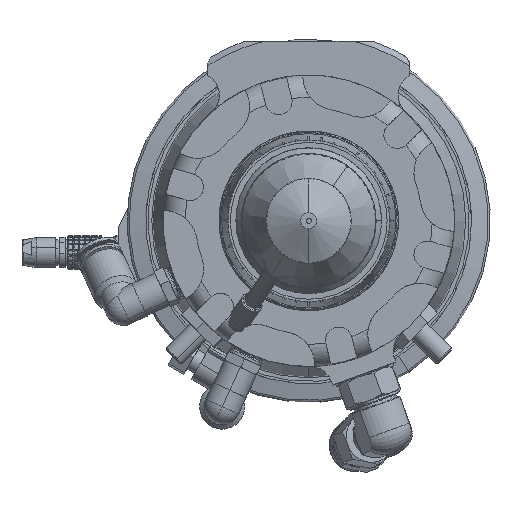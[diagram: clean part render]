
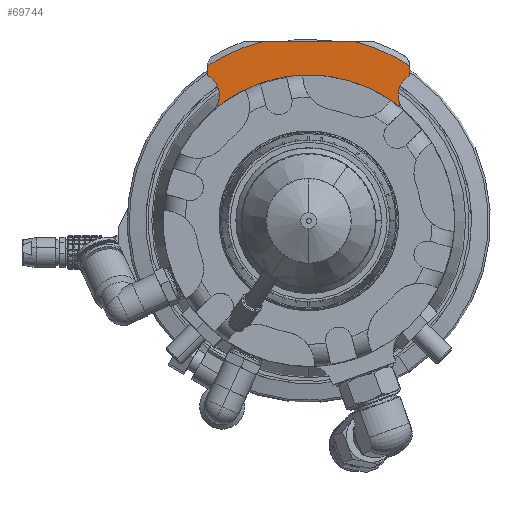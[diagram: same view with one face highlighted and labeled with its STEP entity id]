
A CAD part, front view. The second image highlights one B-rep face of the part: STEP entity #69744.
In plain terms, the highlighted planar face has unit normal (0, -1, 0).
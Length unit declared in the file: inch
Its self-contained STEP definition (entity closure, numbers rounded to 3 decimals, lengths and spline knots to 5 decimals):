
#264 = CARTESIAN_POINT ( 'NONE',  ( -1.245, -4.795, 1.402 ) ) ;
#1282 = DIRECTION ( 'NONE',  ( 0., 0., -1. ) ) ;
#2506 = AXIS2_PLACEMENT_3D ( 'NONE', #23855, #134978, #69988 ) ;
#3811 = ORIENTED_EDGE ( 'NONE', *, *, #46209, .F. ) ;
#5008 = VERTEX_POINT ( 'NONE', #54929 ) ;
#12100 = AXIS2_PLACEMENT_3D ( 'NONE', #155216, #73202, #114461 ) ;
#13683 = DIRECTION ( 'NONE',  ( -1., 0., 0. ) ) ;
#14058 = VERTEX_POINT ( 'NONE', #124306 ) ;
#15635 = DIRECTION ( 'NONE',  ( 0., -1., 0. ) ) ;
#19251 = EDGE_CURVE ( 'Defeatured_463_8+Defeatured_463_6+Defeatured_463_4+Defeatured_463_7', #20897, #99277, #120970, .T. ) ;
#19785 = ORIENTED_EDGE ( 'NONE', *, *, #19251, .T. ) ;
#19798 = ORIENTED_EDGE ( 'NONE', *, *, #115115, .T. ) ;
#20897 = VERTEX_POINT ( 'NONE', #142655 ) ;
#22637 = DIRECTION ( 'NONE',  ( 0., -1., 0. ) ) ;
#23539 = CARTESIAN_POINT ( 'NONE',  ( -1.125, -4.795, 1.62132 ) ) ;
#23855 = CARTESIAN_POINT ( 'NONE',  ( 0., -4.795, 0. ) ) ;
#24326 = CIRCLE ( 'NONE', #157710, 0.25 ) ;
#24467 = VERTEX_POINT ( 'NONE', #36655 ) ;
#26292 = DIRECTION ( 'NONE',  ( -1., 0., 0. ) ) ;
#29874 = DIRECTION ( 'NONE',  ( 0., -1., 0. ) ) ;
#34453 = CARTESIAN_POINT ( 'NONE',  ( 0.99156, -4.795, 1.28742 ) ) ;
#35155 = ORIENTED_EDGE ( 'NONE', *, *, #112619, .T. ) ;
#36655 = CARTESIAN_POINT ( 'NONE',  ( -1.01571, -4.795, 1.2993 ) ) ;
#39720 = DIRECTION ( 'NONE',  ( 0., -1., 0. ) ) ;
#40044 = CARTESIAN_POINT ( 'NONE',  ( 0., -4.795, 0. ) ) ;
#41351 = LINE ( 'NONE', #165335, #110826 ) ;
#41661 = CARTESIAN_POINT ( 'NONE',  ( 0., -4.795, 0. ) ) ;
#43672 = VERTEX_POINT ( 'NONE', #76494 ) ;
#46209 = EDGE_CURVE ( 'Defeatured_463_7+Defeatured_463_8+Defeatured_463_8+Defeatured_463_6', #14058, #99277, #99270, .T. ) ;
#47997 = CIRCLE ( 'NONE', #178987, 0.015 ) ;
#49187 = CARTESIAN_POINT ( 'NONE',  ( 1.01454, -4.795, 1.30511 ) ) ;
#50528 = DIRECTION ( 'NONE',  ( -1., 0., 0. ) ) ;
#54115 = VERTEX_POINT ( 'NONE', #34453 ) ;
#54514 = DIRECTION ( 'NONE',  ( -1., 0., 0. ) ) ;
#54929 = CARTESIAN_POINT ( 'NONE',  ( -1.01454, -4.795, 1.30511 ) ) ;
#57185 = CARTESIAN_POINT ( 'NONE',  ( -1.00071, -4.795, 1.2993 ) ) ;
#59007 = CIRCLE ( 'NONE', #12100, 2.063 ) ;
#59080 = VERTEX_POINT ( 'NONE', #23539 ) ;
#59335 = ORIENTED_EDGE ( 'NONE', *, *, #128414, .T. ) ;
#59492 = AXIS2_PLACEMENT_3D ( 'NONE', #105788, #22637, #50528 ) ;
#67731 = DIRECTION ( 'NONE',  ( 0., 1., 0. ) ) ;
#68020 = AXIS2_PLACEMENT_3D ( 'NONE', #41661, #125462, #13683 ) ;
#68101 = ORIENTED_EDGE ( 'NONE', *, *, #130502, .F. ) ;
#69744 = ADVANCED_FACE ( 'NONE', ( #98812 ), #79751, .F. ) ;
#69927 = EDGE_CURVE ( 'Defeatured_463_8+Defeatured_463_4+Defeatured_463_5+Defeatured_463_4', #5008, #24467, #129102, .T. ) ;
#69988 = DIRECTION ( 'NONE',  ( -1., 0., 0. ) ) ;
#71053 = CARTESIAN_POINT ( 'NONE',  ( 1.245, -4.795, 1.402 ) ) ;
#71197 = VERTEX_POINT ( 'NONE', #84181 ) ;
#72301 = EDGE_LOOP ( 'NONE', ( #87533, #19785, #3811, #131625, #19798, #106466, #111472, #59335, #126944, #35155, #176432, #68101 ) ) ;
#73202 = DIRECTION ( 'NONE',  ( 0., -1., 0. ) ) ;
#76494 = CARTESIAN_POINT ( 'NONE',  ( -1.125, -4.795, 1.72926 ) ) ;
#79751 = PLANE ( 'NONE',  #2506 ) ;
#82973 = CIRCLE ( 'NONE', #68020, 1.625 ) ;
#83076 = CARTESIAN_POINT ( 'NONE',  ( -1.125, -4.795, 1.62132 ) ) ;
#83455 = DIRECTION ( 'NONE',  ( 1., 0., 0. ) ) ;
#84181 = CARTESIAN_POINT ( 'NONE',  ( -0.99156, -4.795, 1.28742 ) ) ;
#84934 = DIRECTION ( 'NONE',  ( 0., -1., 0. ) ) ;
#85385 = VERTEX_POINT ( 'NONE', #49187 ) ;
#87533 = ORIENTED_EDGE ( 'NONE', *, *, #104826, .F. ) ;
#89110 = EDGE_CURVE ( 'Defeatured_463_3+Defeatured_463_8+Defeatured_463_4+Defeatured_463_5', #141082, #85385, #130089, .T. ) ;
#98812 = FACE_OUTER_BOUND ( 'NONE', #72301, .T. ) ;
#99270 = LINE ( 'NONE', #106150, #118761 ) ;
#99277 = VERTEX_POINT ( 'NONE', #159686 ) ;
#102472 = DIRECTION ( 'NONE',  ( -1., 0., 0. ) ) ;
#104826 = EDGE_CURVE ( 'Defeatured_463_4+Defeatured_463_8+Defeatured_463_6+Defeatured_463_3', #20897, #135501, #41351, .T. ) ;
#105788 = CARTESIAN_POINT ( 'NONE',  ( 1.245, -4.795, 1.402 ) ) ;
#106150 = CARTESIAN_POINT ( 'NONE',  ( 0.71807, -4.795, 2. ) ) ;
#106466 = ORIENTED_EDGE ( 'NONE', *, *, #133716, .T. ) ;
#108311 = LINE ( 'NONE', #83076, #167131 ) ;
#110412 = AXIS2_PLACEMENT_3D ( 'NONE', #71053, #84934, #102472 ) ;
#110826 = VECTOR ( 'NONE', #1282, 39.37008 ) ;
#111472 = ORIENTED_EDGE ( 'NONE', *, *, #69927, .T. ) ;
#112619 = EDGE_CURVE ( 'Defeatured_463_8+Defeatured_463_5+Defeatured_463_4+Defeatured_463_3', #54115, #85385, #47997, .T. ) ;
#114461 = DIRECTION ( 'NONE',  ( -1., 0., 0. ) ) ;
#115115 = EDGE_CURVE ( 'Defeatured_463_8+Defeatured_463_4+Defeatured_463_8+Defeatured_463_5', #43672, #59080, #108311, .T. ) ;
#118761 = VECTOR ( 'NONE', #135325, 39.37008 ) ;
#120970 = CIRCLE ( 'NONE', #136582, 2.063 ) ;
#122918 = CARTESIAN_POINT ( 'NONE',  ( 1.00071, -4.795, 1.2993 ) ) ;
#124306 = CARTESIAN_POINT ( 'NONE',  ( -0.50593, -4.795, 2. ) ) ;
#124556 = EDGE_CURVE ( 'Defeatured_463_4+Defeatured_463_8+Defeatured_463_5+Defeatured_463_4', #54115, #71197, #82973, .T. ) ;
#124571 = EDGE_CURVE ( 'Defeatured_463_8+Defeatured_463_8+Defeatured_463_7+Defeatured_463_4', #14058, #43672, #59007, .T. ) ;
#125462 = DIRECTION ( 'NONE',  ( 0., -1., 0. ) ) ;
#126944 = ORIENTED_EDGE ( 'NONE', *, *, #124556, .F. ) ;
#128414 = EDGE_CURVE ( 'Defeatured_463_8+Defeatured_463_4+Defeatured_463_5+Defeatured_463_4', #24467, #71197, #165898, .T. ) ;
#129102 = CIRCLE ( 'NONE', #139831, 0.015 ) ;
#130089 = CIRCLE ( 'NONE', #110412, 0.25 ) ;
#130502 = EDGE_CURVE ( 'Defeatured_463_3+Defeatured_463_8+Defeatured_463_4+Defeatured_463_5', #135501, #141082, #138995, .T. ) ;
#131625 = ORIENTED_EDGE ( 'NONE', *, *, #124571, .T. ) ;
#133716 = EDGE_CURVE ( 'Defeatured_463_8+Defeatured_463_5+Defeatured_463_4+Defeatured_463_4', #59080, #5008, #24326, .T. ) ;
#134978 = DIRECTION ( 'NONE',  ( 0., 1., 0. ) ) ;
#135325 = DIRECTION ( 'NONE',  ( 1., 0., 0. ) ) ;
#135501 = VERTEX_POINT ( 'NONE', #138999 ) ;
#136582 = AXIS2_PLACEMENT_3D ( 'NONE', #40044, #152991, #54514 ) ;
#138995 = CIRCLE ( 'NONE', #59492, 0.25 ) ;
#138999 = CARTESIAN_POINT ( 'NONE',  ( 1.125, -4.795, 1.62132 ) ) ;
#139831 = AXIS2_PLACEMENT_3D ( 'NONE', #57185, #29874, #170811 ) ;
#141082 = VERTEX_POINT ( 'NONE', #168178 ) ;
#142655 = CARTESIAN_POINT ( 'NONE',  ( 1.125, -4.795, 1.72926 ) ) ;
#152991 = DIRECTION ( 'NONE',  ( 0., -1., 0. ) ) ;
#155216 = CARTESIAN_POINT ( 'NONE',  ( 0., -4.795, 0. ) ) ;
#155356 = DIRECTION ( 'NONE',  ( -1., 0., 0. ) ) ;
#155954 = CARTESIAN_POINT ( 'NONE',  ( -1.00071, -4.795, 1.2993 ) ) ;
#157710 = AXIS2_PLACEMENT_3D ( 'NONE', #264, #67731, #83455 ) ;
#159686 = CARTESIAN_POINT ( 'NONE',  ( 0.50593, -4.795, 2. ) ) ;
#165335 = CARTESIAN_POINT ( 'NONE',  ( 1.125, -4.795, 1.62132 ) ) ;
#165898 = CIRCLE ( 'NONE', #177883, 0.015 ) ;
#167131 = VECTOR ( 'NONE', #180354, 39.37008 ) ;
#168178 = CARTESIAN_POINT ( 'NONE',  ( 0.995, -4.795, 1.402 ) ) ;
#170811 = DIRECTION ( 'NONE',  ( -1., 0., 0. ) ) ;
#176432 = ORIENTED_EDGE ( 'NONE', *, *, #89110, .F. ) ;
#177883 = AXIS2_PLACEMENT_3D ( 'NONE', #155954, #15635, #155356 ) ;
#178987 = AXIS2_PLACEMENT_3D ( 'NONE', #122918, #39720, #26292 ) ;
#180354 = DIRECTION ( 'NONE',  ( 0., 0., -1. ) ) ;
